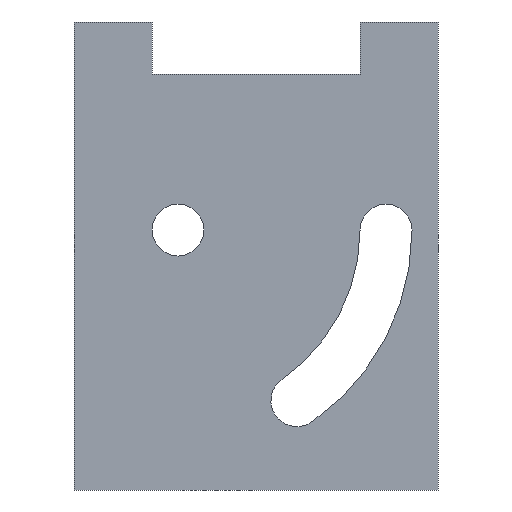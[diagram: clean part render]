
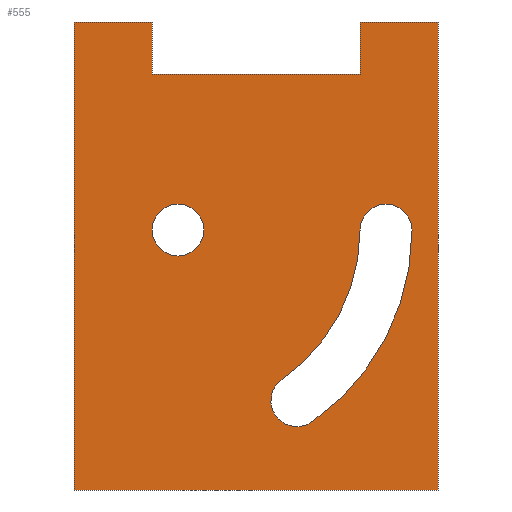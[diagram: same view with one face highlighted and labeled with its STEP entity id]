
A CAD part, left-side view. The second image highlights one B-rep face of the part: STEP entity #555.
In plain terms, the highlighted planar face has unit normal (-1, 0, 0).
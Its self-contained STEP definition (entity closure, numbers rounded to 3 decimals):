
#57=CARTESIAN_POINT('Line Origine',(35.,555.994,118.4)) ;
#61=CARTESIAN_POINT('Vertex',(35.,555.994,73.4)) ;
#63=CARTESIAN_POINT('Vertex',(35.,555.994,163.4)) ;
#97=CARTESIAN_POINT('Line Origine',(35.,548.494,163.4)) ;
#101=CARTESIAN_POINT('Vertex',(35.,540.994,163.4)) ;
#128=CARTESIAN_POINT('Line Origine',(35.,540.994,158.4)) ;
#132=CARTESIAN_POINT('Vertex',(35.,540.994,153.4)) ;
#159=CARTESIAN_POINT('Line Origine',(35.,530.994,153.4)) ;
#163=CARTESIAN_POINT('Vertex',(35.,520.994,153.4)) ;
#185=CARTESIAN_POINT('Line Origine',(35.,510.994,153.4)) ;
#189=CARTESIAN_POINT('Vertex',(35.,500.994,153.4)) ;
#216=CARTESIAN_POINT('Line Origine',(35.,500.994,158.4)) ;
#220=CARTESIAN_POINT('Vertex',(35.,500.994,163.4)) ;
#242=CARTESIAN_POINT('Line Origine',(35.,493.494,163.4)) ;
#246=CARTESIAN_POINT('Vertex',(35.,485.994,163.4)) ;
#273=CARTESIAN_POINT('Line Origine',(35.,485.994,118.4)) ;
#277=CARTESIAN_POINT('Vertex',(35.,485.994,73.4)) ;
#304=CARTESIAN_POINT('Line Origine',(35.,520.994,73.4)) ;
#332=CARTESIAN_POINT('Vertex',(35.,535.994,128.4)) ;
#346=CARTESIAN_POINT('Vertex',(35.,535.994,118.4)) ;
#349=CARTESIAN_POINT('Axis2P3D Location',(35.,535.994,123.4)) ;
#366=CARTESIAN_POINT('Axis2P3D Location',(35.,535.994,123.4)) ;
#389=CARTESIAN_POINT('Vertex',(35.,490.994,123.4)) ;
#403=CARTESIAN_POINT('Vertex',(35.,510.27,86.478)) ;
#406=CARTESIAN_POINT('Axis2P3D Location',(35.,535.994,123.4)) ;
#429=CARTESIAN_POINT('Vertex',(35.,500.994,123.4)) ;
#437=CARTESIAN_POINT('Axis2P3D Location',(35.,495.994,123.4)) ;
#460=CARTESIAN_POINT('Vertex',(35.,515.987,94.683)) ;
#468=CARTESIAN_POINT('Axis2P3D Location',(35.,535.994,123.4)) ;
#490=CARTESIAN_POINT('Axis2P3D Location',(35.,513.129,90.58)) ;
#529=CARTESIAN_POINT('Axis2P3D Location',(35.,0.,0.)) ;
#58=DIRECTION('Vector Direction',(0.,0.,-1.)) ;
#98=DIRECTION('Vector Direction',(0.,1.,0.)) ;
#129=DIRECTION('Vector Direction',(0.,0.,-1.)) ;
#160=DIRECTION('Vector Direction',(0.,-1.,0.)) ;
#186=DIRECTION('Vector Direction',(0.,1.,0.)) ;
#217=DIRECTION('Vector Direction',(0.,0.,-1.)) ;
#243=DIRECTION('Vector Direction',(0.,1.,0.)) ;
#274=DIRECTION('Vector Direction',(0.,0.,1.)) ;
#305=DIRECTION('Vector Direction',(0.,-1.,0.)) ;
#350=DIRECTION('Axis2P3D Direction',(1.,0.,-0.)) ;
#367=DIRECTION('Axis2P3D Direction',(1.,0.,-0.)) ;
#407=DIRECTION('Axis2P3D Direction',(1.,0.,-0.)) ;
#438=DIRECTION('Axis2P3D Direction',(1.,0.,-0.)) ;
#469=DIRECTION('Axis2P3D Direction',(1.,0.,-0.)) ;
#491=DIRECTION('Axis2P3D Direction',(1.,0.,-0.)) ;
#530=DIRECTION('Axis2P3D Direction',(1.,0.,0.)) ;
#531=DIRECTION('Axis2P3D XDirection',(0.,1.,0.)) ;
#351=AXIS2_PLACEMENT_3D('Circle Axis2P3D',#349,#350,$) ;
#368=AXIS2_PLACEMENT_3D('Circle Axis2P3D',#366,#367,$) ;
#408=AXIS2_PLACEMENT_3D('Circle Axis2P3D',#406,#407,$) ;
#439=AXIS2_PLACEMENT_3D('Circle Axis2P3D',#437,#438,$) ;
#470=AXIS2_PLACEMENT_3D('Circle Axis2P3D',#468,#469,$) ;
#492=AXIS2_PLACEMENT_3D('Circle Axis2P3D',#490,#491,$) ;
#532=AXIS2_PLACEMENT_3D('Plane Axis2P3D',#529,#530,#531) ;
#535=ORIENTED_EDGE('',*,*,#308,.F.) ;
#536=ORIENTED_EDGE('',*,*,#279,.F.) ;
#537=ORIENTED_EDGE('',*,*,#248,.F.) ;
#538=ORIENTED_EDGE('',*,*,#222,.F.) ;
#539=ORIENTED_EDGE('',*,*,#191,.F.) ;
#540=ORIENTED_EDGE('',*,*,#165,.F.) ;
#541=ORIENTED_EDGE('',*,*,#134,.F.) ;
#542=ORIENTED_EDGE('',*,*,#103,.F.) ;
#543=ORIENTED_EDGE('',*,*,#65,.F.) ;
#546=ORIENTED_EDGE('',*,*,#370,.T.) ;
#547=ORIENTED_EDGE('',*,*,#353,.T.) ;
#550=ORIENTED_EDGE('',*,*,#494,.T.) ;
#551=ORIENTED_EDGE('',*,*,#472,.T.) ;
#552=ORIENTED_EDGE('',*,*,#441,.T.) ;
#553=ORIENTED_EDGE('',*,*,#410,.T.) ;
#548=FACE_BOUND('',#545,.T.) ;
#554=FACE_BOUND('',#549,.T.) ;
#59=VECTOR('Line Direction',#58,1.) ;
#99=VECTOR('Line Direction',#98,1.) ;
#130=VECTOR('Line Direction',#129,1.) ;
#161=VECTOR('Line Direction',#160,1.) ;
#187=VECTOR('Line Direction',#186,1.) ;
#218=VECTOR('Line Direction',#217,1.) ;
#244=VECTOR('Line Direction',#243,1.) ;
#275=VECTOR('Line Direction',#274,1.) ;
#306=VECTOR('Line Direction',#305,1.) ;
#555=ADVANCED_FACE('PartBody',(#544,#548,#554),#533,.F.) ;
#352=CIRCLE('generated circle',#351,5.) ;
#369=CIRCLE('generated circle',#368,5.) ;
#409=CIRCLE('generated circle',#408,45.) ;
#440=CIRCLE('generated circle',#439,5.) ;
#471=CIRCLE('generated circle',#470,35.) ;
#493=CIRCLE('generated circle',#492,5.) ;
#65=EDGE_CURVE('',#62,#64,#60,.F.) ;
#103=EDGE_CURVE('',#64,#102,#100,.F.) ;
#134=EDGE_CURVE('',#102,#133,#131,.T.) ;
#165=EDGE_CURVE('',#133,#164,#162,.T.) ;
#191=EDGE_CURVE('',#164,#190,#188,.F.) ;
#222=EDGE_CURVE('',#190,#221,#219,.F.) ;
#248=EDGE_CURVE('',#221,#247,#245,.F.) ;
#279=EDGE_CURVE('',#247,#278,#276,.F.) ;
#308=EDGE_CURVE('',#278,#62,#307,.F.) ;
#353=EDGE_CURVE('',#333,#347,#352,.T.) ;
#370=EDGE_CURVE('',#347,#333,#369,.T.) ;
#410=EDGE_CURVE('',#390,#404,#409,.T.) ;
#441=EDGE_CURVE('',#430,#390,#440,.T.) ;
#472=EDGE_CURVE('',#461,#430,#471,.F.) ;
#494=EDGE_CURVE('',#404,#461,#493,.T.) ;
#534=EDGE_LOOP('',(#535,#536,#537,#538,#539,#540,#541,#542,#543)) ;
#545=EDGE_LOOP('',(#546,#547)) ;
#549=EDGE_LOOP('',(#550,#551,#552,#553)) ;
#544=FACE_OUTER_BOUND('',#534,.T.) ;
#60=LINE('Line',#57,#59) ;
#100=LINE('Line',#97,#99) ;
#131=LINE('Line',#128,#130) ;
#162=LINE('Line',#159,#161) ;
#188=LINE('Line',#185,#187) ;
#219=LINE('Line',#216,#218) ;
#245=LINE('Line',#242,#244) ;
#276=LINE('Line',#273,#275) ;
#307=LINE('Line',#304,#306) ;
#533=PLANE('Plane',#532) ;
#62=VERTEX_POINT('',#61) ;
#64=VERTEX_POINT('',#63) ;
#102=VERTEX_POINT('',#101) ;
#133=VERTEX_POINT('',#132) ;
#164=VERTEX_POINT('',#163) ;
#190=VERTEX_POINT('',#189) ;
#221=VERTEX_POINT('',#220) ;
#247=VERTEX_POINT('',#246) ;
#278=VERTEX_POINT('',#277) ;
#333=VERTEX_POINT('',#332) ;
#347=VERTEX_POINT('',#346) ;
#390=VERTEX_POINT('',#389) ;
#404=VERTEX_POINT('',#403) ;
#430=VERTEX_POINT('',#429) ;
#461=VERTEX_POINT('',#460) ;
